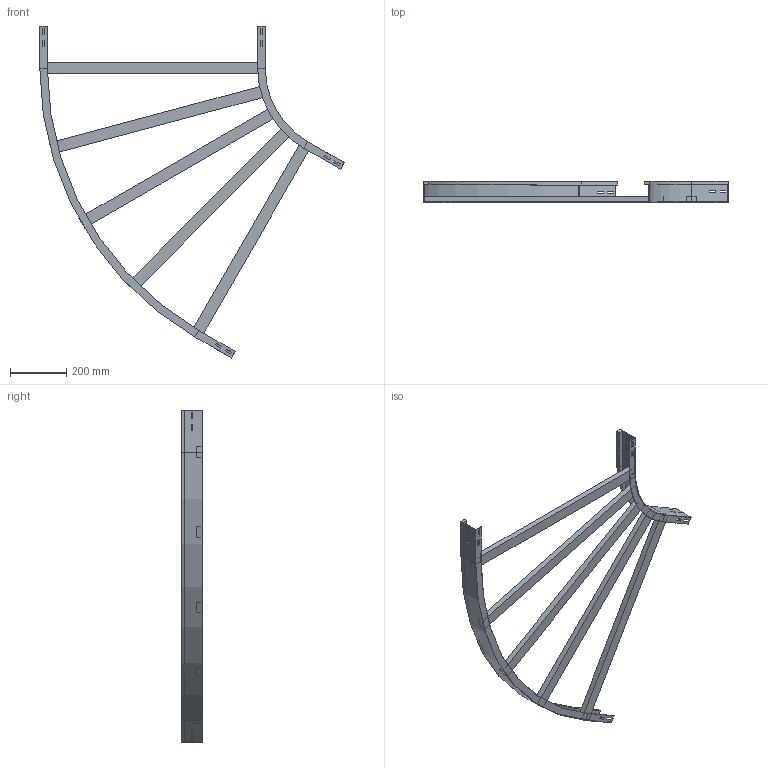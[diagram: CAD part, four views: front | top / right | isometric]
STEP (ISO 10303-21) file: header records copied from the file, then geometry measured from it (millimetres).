
FILE_DESCRIPTION (( 'STEP AP214' ), '1' );
FILE_NAME ('A2_13B3C800.step', '2025-02-21T15:21:27', ( '' ), ( '' ), 'SwSTEP 2.0', 'SolidWorks 2023', '' );
FILE_SCHEMA (( 'AUTOMOTIVE_DESIGN' ));
Length unit declared in the file: millimetre
Products named in the file (4): A2_LONGH.INTERNO 60°_H75_R300; A2_13B3C800; A2_LONGH.ESTERNO 60°_H75_R300+800; TRAVERSINO_800
Assembly tree (7 placements, depth 2):
  A2_13B3C800
    A2_LONGH.INTERNO 60°_H75_R300
    A2_LONGH.ESTERNO 60°_H75_R300+800
    TRAVERSINO_800  x5
Bounding box: 1079.9 x 75 x 1177.63 mm (x, y, z)
Volume: 4028774 mm3; surface area: 975770.1 mm2
Topology: 7 solids, 7 shells, 146 faces, 364 edges, 232 vertices
Faces by surface type: plane 138, cylinder 8
Entity records: 3837 total; most frequent: CARTESIAN_POINT 648, ORIENTED_EDGE 632, DIRECTION 596, EDGE_CURVE 316, LINE 300, VECTOR 300, VERTEX_POINT 200, EDGE_LOOP 154
